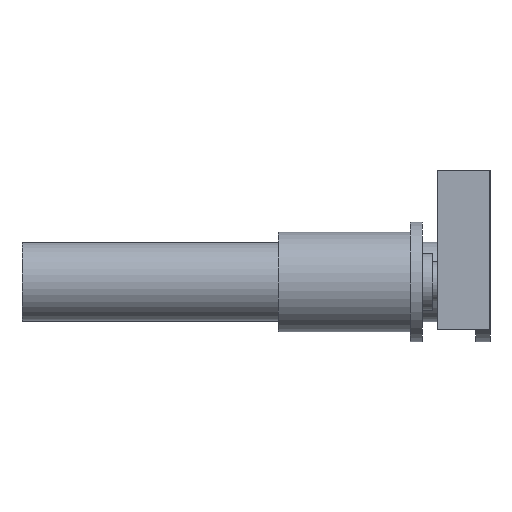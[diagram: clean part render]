
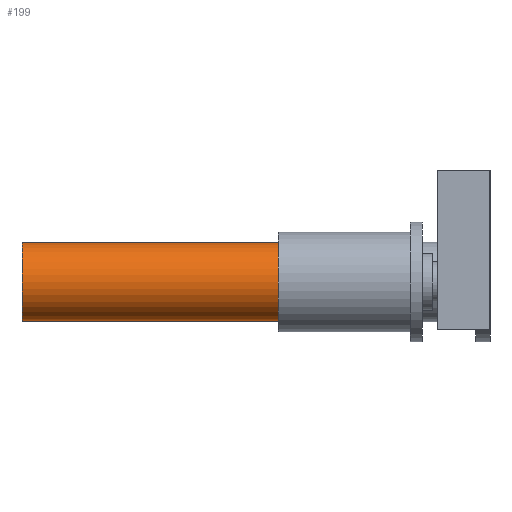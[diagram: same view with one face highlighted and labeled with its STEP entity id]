
A CAD part, left-side view. The second image highlights one B-rep face of the part: STEP entity #199.
In plain terms, the highlighted cylindrical face has radius 4.9 mm (diameter 9.8 mm), a full revolution.
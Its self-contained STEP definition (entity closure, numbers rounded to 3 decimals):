
#199 = ADVANCED_FACE( '', ( #363, #364 ), #365, .T. );
#363 = FACE_OUTER_BOUND( '', #499, .T. );
#364 = FACE_OUTER_BOUND( '', #500, .T. );
#365 = CYLINDRICAL_SURFACE( '', #501, 4.9 );
#499 = EDGE_LOOP( '', ( #718 ) );
#500 = EDGE_LOOP( '', ( #719 ) );
#501 = AXIS2_PLACEMENT_3D( '', #720, #721, #722 );
#718 = ORIENTED_EDGE( '', *, *, #808, .F. );
#719 = ORIENTED_EDGE( '', *, *, #754, .T. );
#720 = CARTESIAN_POINT( '', ( 0., 80., 0. ) );
#721 = DIRECTION( '', ( 0., -1., 0. ) );
#722 = DIRECTION( '', ( 0., 0., 1. ) );
#754 = EDGE_CURVE( '', #845, #845, #846, .T. );
#808 = EDGE_CURVE( '', #924, #924, #925, .T. );
#845 = VERTEX_POINT( '', #962 );
#846 = CIRCLE( '', #963, 4.9 );
#924 = VERTEX_POINT( '', #1061 );
#925 = CIRCLE( '', #1062, 4.9 );
#962 = CARTESIAN_POINT( '', ( 0., 16.5, 4.9 ) );
#963 = AXIS2_PLACEMENT_3D( '', #1102, #1103, #1104 );
#1061 = CARTESIAN_POINT( '', ( 0., 48.6, 4.9 ) );
#1062 = AXIS2_PLACEMENT_3D( '', #1161, #1162, #1163 );
#1102 = CARTESIAN_POINT( '', ( 0., 16.5, 0. ) );
#1103 = DIRECTION( '', ( 0., 1., 0. ) );
#1104 = DIRECTION( '', ( 0., 0., 1. ) );
#1161 = CARTESIAN_POINT( '', ( 0., 48.6, 0. ) );
#1162 = DIRECTION( '', ( 0., 1., 0. ) );
#1163 = DIRECTION( '', ( 0., 0., 1. ) );
